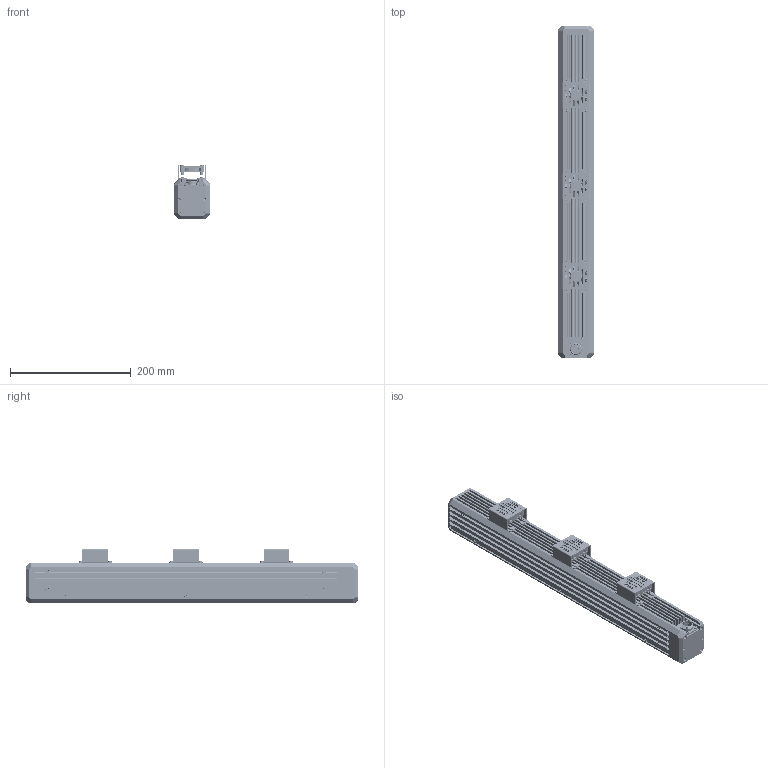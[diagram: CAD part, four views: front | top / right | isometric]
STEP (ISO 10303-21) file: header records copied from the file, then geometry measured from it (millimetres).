
FILE_DESCRIPTION((''),'2;1');
FILE_NAME('MV-LTDS-H-500-W_ASM_1_ASM','2025-06-03T15:11:37',('huguozhe'),(''),'CREO PARAMETRIC BY PTC INC, 2020044','CREO PARAMETRIC BY PTC INC, 2020044','');
FILE_SCHEMA(('AUTOMOTIVE_DESIGN { 1 0 10303 214 1 1 1 1 }'));
Products named in the file (27): DE-15-000332_1; DE-15-000378_ASM_1_ASM; DE-15-000333_1; DE-15-000379_ASM_1_ASM; SC-HSCM3X6B-GB70_1_1; DE-14-015561_1; DE-14-016112_ASM_1_ASM; DE-14-015560_1_1_1; DE-14-016113_ASM_1_1_ASM_1_ASM; DE-14-016113_ASM_ASM_1_ASM; 19M-H_2_1_1_1; 19M-8H-8P_1_1; 19M-8H_ASM_1_ASM_1_ASM; 19M-8H_ASM_ASM_1_ASM; DE-14-016113-19M-8H_ASM; DE-12-001311_1; SC-AM3X10NL-BNI-SCM435-GB70_1_1; SC-HSCM3X8-SUS316_1; DE-11-019911_1; 8002-CLS-M3-1_1; DE-11-019911_ASM_1_ASM; 101800527_01_1; 101800527_02_1; 101800527_MGA4012HB-O10_ASM_1_ASM; SC-ASFM3X14NL-BNI-SUS316L_1; NUT-M4-GB6170_1; MV-LTDS-H-500-W_ASM_1_ASM
Assembly tree (79 placements, depth 5):
  MV-LTDS-H-500-W_ASM_1_ASM
    DE-15-000378_ASM_1_ASM
      DE-15-000332_1
    DE-15-000379_ASM_1_ASM  x2
      DE-15-000333_1
    SC-HSCM3X6B-GB70_1_1  x6
    DE-14-016112_ASM_1_ASM
      DE-14-015561_1
    DE-14-016113-19M-8H_ASM
      DE-14-016113_ASM_ASM_1_ASM
        DE-14-016113_ASM_1_1_ASM_1_ASM
          DE-14-015560_1_1_1
      19M-8H_ASM_ASM_1_ASM
        19M-8H_ASM_1_ASM_1_ASM
          19M-H_2_1_1_1
          19M-8H-8P_1_1
    DE-12-001311_1
    SC-AM3X10NL-BNI-SCM435-GB70_1_1  x20
    SC-HSCM3X8-SUS316_1  x4
    DE-11-019911_ASM_1_ASM  x3
      DE-11-019911_1
      8002-CLS-M3-1_1
    101800527_MGA4012HB-O10_ASM_1_ASM  x3
      101800527_01_1
      101800527_02_1
    SC-ASFM3X14NL-BNI-SUS316L_1  x12
    NUT-M4-GB6170_1  x8
Bounding box: 58 x 550 x 90.6 mm (x, y, z)
Volume: 1688876.8 mm3; surface area: 482429 mm2
Topology: 79 solids, 209 shells, 4310 faces, 11546 edges, 7454 vertices
Faces by surface type: plane 1986, cylinder 1492, cone 580, torus 202, bspline 34, sphere 16
Entity records: 75935 total; most frequent: CARTESIAN_POINT 19830, DIRECTION 10347, ORIENTED_EDGE 9420, EDGE_CURVE 4824, AXIS2_PLACEMENT_3D 3914, VERTEX_POINT 3221, VECTOR 2519, LINE 2519
